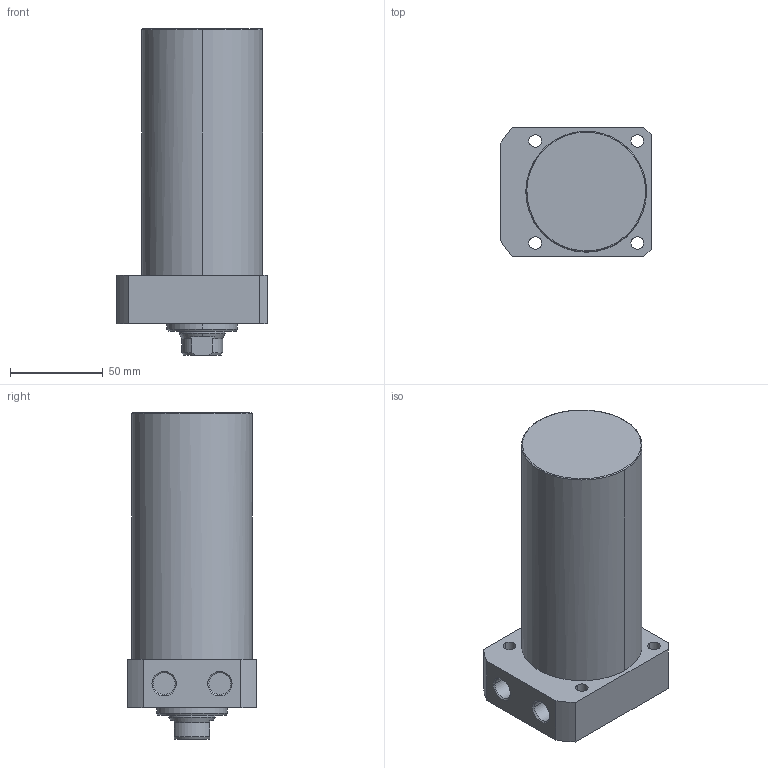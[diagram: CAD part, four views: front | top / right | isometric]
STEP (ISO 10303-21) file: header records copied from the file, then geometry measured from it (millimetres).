
FILE_DESCRIPTION((' '),'2;1');
FILE_NAME( 'TLLR-065CA-100.STEP.stp', '2025-10-24T16:34:54', (' '), ('--- Datakit www.datakit.com---'), ' Datakit CrossCadWare V2024.1 Dec 21 2023', 'Mastercam 2025', ' ');
FILE_SCHEMA(('AUTOMOTIVE_DESIGN { 1 0 10303 214 1 1 1 1 }'));
Length unit declared in the file: millimetre
Products named in the file (1): TLLR-065CA-100
Bounding box: 81 x 70 x 176 mm (x, y, z)
Volume: 585307.8 mm3; surface area: 51588.9 mm2
Topology: 1 solids, 1 shells, 63 faces, 179 edges, 124 vertices
Faces by surface type: cylinder 28, plane 19, cone 14, torus 2
Entity records: 2174 total; most frequent: DIRECTION 402, CARTESIAN_POINT 397, ORIENTED_EDGE 354, EDGE_CURVE 177, AXIS2_PLACEMENT_3D 169, VERTEX_POINT 124, CIRCLE 105, EDGE_LOOP 79
